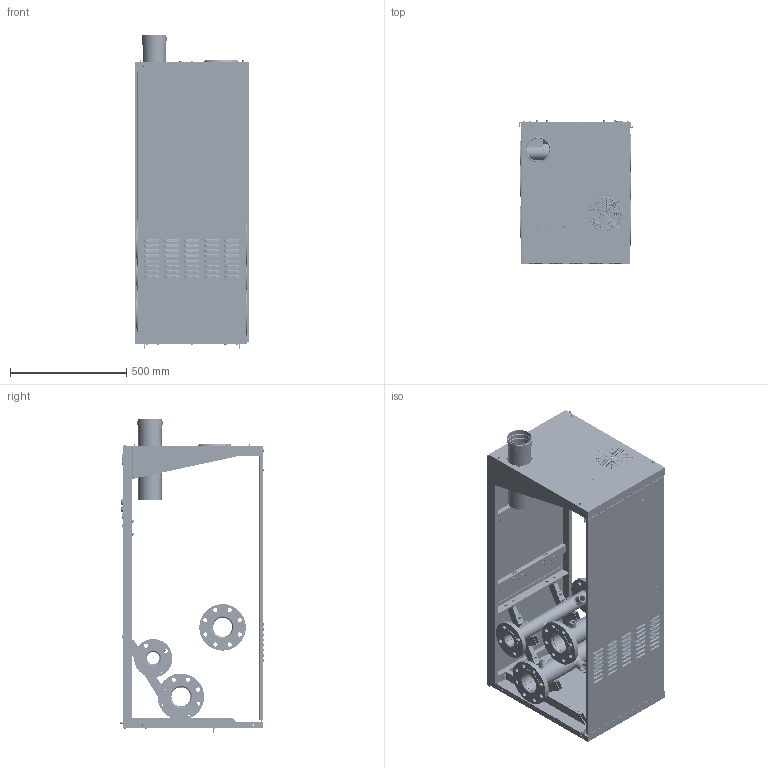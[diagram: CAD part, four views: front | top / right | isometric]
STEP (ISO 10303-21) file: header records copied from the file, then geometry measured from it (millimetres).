
FILE_DESCRIPTION(/* description */ ('Unknown'),/* implementation_level */ '2;1');
FILE_NAME(/* name */ '41011579',/* time_stamp */ '2018-05-28T11:34:47+02:00',/* author */ ('Unknown'),/* organization */ ('Unknown'),/* preprocessor_version */ 'ST-DEVELOPER v16.7',/* originating_system */ 'DEX',/* authorisation */ $);
FILE_SCHEMA (('AUTOMOTIVE_DESIGN {1 0 10303 214 3 1 1}'));
Products named in the file (104): 41011579-00000; 85010111_oa_0; 00212388; inserto_M8_H=21_aperto; 00212397; RON0600C; 16158; DAD0400C; VIM0024; 27673; 00261158; 00260425; 00212778; PRN0120C; VIT0270C; MOL0600C; 00212382; 00212382-13; 00212382-14; 00212382-15; 00212382-16; inserto_ESAG_M6_aperto; 00212382-17; 89011030-00000_oa_1; 00260921; 00263531; VIT0390C; ron0400c; 00218105-00000; inserto_M5_uni 10447-A2; inserto_M4_H=10_aperto_ inox; 00212781; inserto M3; 00213808; ron0820c; DAD0200C; 00250937; EAL2000C; PSF0300C; 00250816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
Assembly tree (204 placements, depth 5):
  41011579-00000
    85010111_oa_0
      00212388  x2
        00212388
        inserto_M8_H=21_aperto
      00212397  x2
      RON0600C  x20
      16158  x4
      DAD0400C  x10
      VIM0024  x4
      27673  x2
      00261158  x7
      00260425  x7
      00212778
      PRN0120C
      VIT0270C  x2
      MOL0600C  x4
      00212382
        00212382-13
        00212382-14  x2
        00212382-15  x2
        00212382-16
        inserto_ESAG_M6_aperto  x8
        00212382-17
    89011030-00000_oa_1
      00260921
      00263531  x2
      VIT0390C  x8
      ron0400c  x4
      00218105-00000
        00218105-00000
        inserto_M5_uni 10447-A2  x8
        inserto_M4_H=10_aperto_ inox  x4
      00212781
        00212781
        inserto M3  x2
      PRN0120C  x5
      00213808
      ron0820c  x4
      DAD0200C  x4
      00261158  x6
      00260425  x16
      00250937  x2
      EAL2000C
      PSF0300C
      00250816
      00264393
      00261530  x2
      00263745
      00263881  x2
    86010654-00000_oa_2
      00282210
        00282214_oa_3
          00282213_oa_4
        24488
        33534
        00213035  x2
        VER0010
        00262634
        00262632_oa_13
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Bounding box: 486.5 x 622.74 x 1347 mm (x, y, z)
Volume: 7638814.1 mm3; surface area: 7182091.3 mm2
Topology: 241 solids, 241 shells, 3844 faces, 9652 edges, 6437 vertices
Faces by surface type: plane 2577, cylinder 808, bspline 216, cone 152, torus 89, sphere 2
Full cylindrical faces by diameter (mm): 2 x10, 2.459 x2, 3 x8, 3.242 x4, 3.5 x9, 3.78 x2, 3.8 x2, 4 x4, 4.134 x10, 4.2 x22, 4.282 x2, 4.8 x27, 4.917 x20, 5 x29, 5.3 x13, 5.5 x3, 6 x13, 6.4 x4, 6.5 x12, 6.647 x4, 7 x28, 7.5 x4, 8 x62, 8.376 x4, 8.4 x20, 8.5 x40, 8.566 x1, 9 x20, 9.5 x27, 10 x21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
Entity records: 73931 total; most frequent: CARTESIAN_POINT 26149, ORIENTED_EDGE 8662, DIRECTION 8462, EDGE_CURVE 4331, VERTEX_POINT 3033, AXIS2_PLACEMENT_3D 2857, FACE_BOUND 2788, EDGE_LOOP 2781
